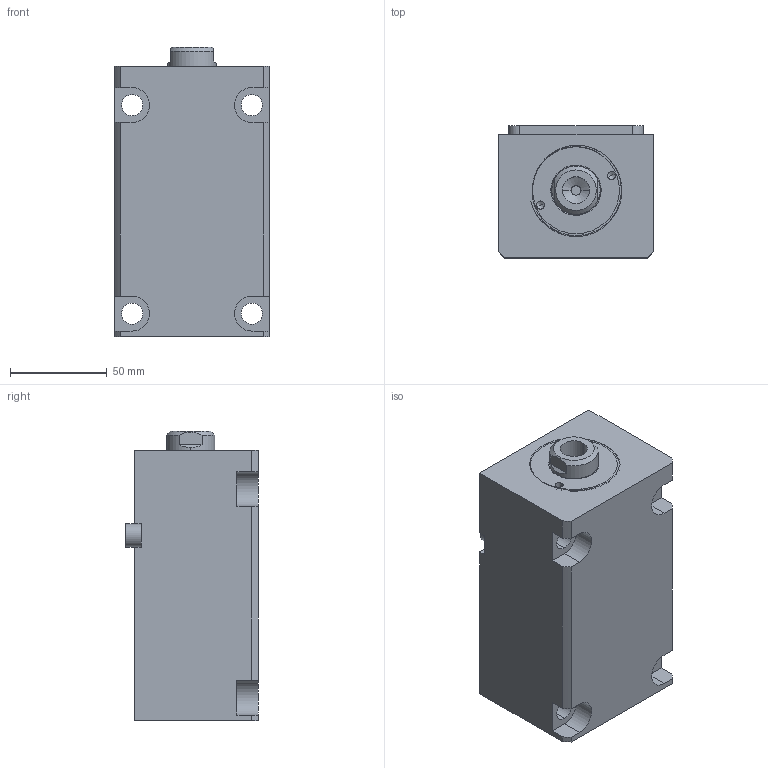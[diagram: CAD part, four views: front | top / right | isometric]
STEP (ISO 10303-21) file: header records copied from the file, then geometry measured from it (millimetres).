
FILE_DESCRIPTION (( 'STEP AP214' ), '1' );
FILE_NAME ('chtb-lam40x85n_asm.STEP', '2018-05-29T08:07:25', ( 'Windows' ), ( 'Microsoft' ), 'SwSTEP 2.0', 'SolidWorks 2015', '' );
FILE_SCHEMA (( 'AUTOMOTIVE_DESIGN' ));
Length unit declared in the file: millimetre
Products named in the file (5): chtb-lam40x85n_asm; CHTB-LA40PJ; CHTB-SD40X85NHSG; CHTB-SD40QG; CHTB-LAM40X85NBT
Assembly tree (4 placements, depth 2):
  chtb-lam40x85n_asm
    CHTB-LAM40X85NBT
    CHTB-SD40QG
    CHTB-SD40X85NHSG
    CHTB-LA40PJ
Bounding box: 80 x 68.5 x 150 mm (x, y, z)
Volume: 614674.6 mm3; surface area: 106534.4 mm2
Topology: 4 solids, 4 shells, 154 faces, 418 edges, 278 vertices
Faces by surface type: cylinder 73, plane 46, bspline 14, torus 12, cone 9
Entity records: 10092 total; most frequent: CARTESIAN_POINT 6074, ORIENTED_EDGE 824, DIRECTION 755, EDGE_CURVE 412, AXIS2_PLACEMENT_3D 300, VERTEX_POINT 278, EDGE_LOOP 180, VECTOR 155
